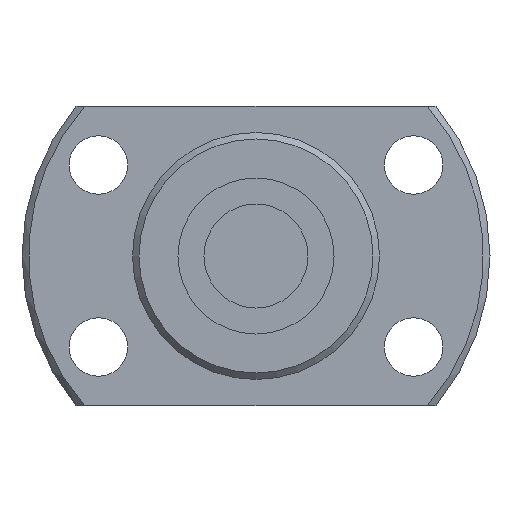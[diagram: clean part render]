
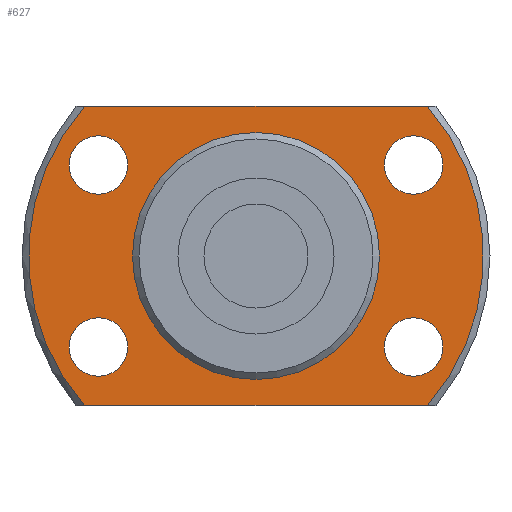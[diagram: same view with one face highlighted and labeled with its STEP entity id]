
A CAD part, left-side view. The second image highlights one B-rep face of the part: STEP entity #627.
In plain terms, the highlighted planar face has unit normal (-1, 0, 0) as drawn and (1, 0, 0) by its records, which use the part's own axes.
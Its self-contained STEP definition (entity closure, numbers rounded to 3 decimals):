
#77=LINE('',#1111,#95);
#78=LINE('',#1113,#96);
#95=VECTOR('',#920,1000.);
#96=VECTOR('',#921,1000.);
#196=ORIENTED_EDGE('',*,*,#298,.T.);
#197=ORIENTED_EDGE('',*,*,#276,.T.);
#198=ORIENTED_EDGE('',*,*,#299,.T.);
#199=ORIENTED_EDGE('',*,*,#300,.T.);
#200=ORIENTED_EDGE('',*,*,#301,.F.);
#201=ORIENTED_EDGE('',*,*,#302,.F.);
#202=ORIENTED_EDGE('',*,*,#303,.F.);
#203=ORIENTED_EDGE('',*,*,#304,.F.);
#204=ORIENTED_EDGE('',*,*,#297,.F.);
#276=EDGE_CURVE('',#339,#341,#392,.T.);
#297=EDGE_CURVE('',#360,#360,#407,.T.);
#298=EDGE_CURVE('',#361,#339,#77,.T.);
#299=EDGE_CURVE('',#341,#362,#78,.T.);
#300=EDGE_CURVE('',#362,#361,#408,.T.);
#301=EDGE_CURVE('',#363,#363,#409,.T.);
#302=EDGE_CURVE('',#364,#364,#410,.T.);
#303=EDGE_CURVE('',#365,#365,#411,.T.);
#304=EDGE_CURVE('',#366,#366,#412,.T.);
#339=VERTEX_POINT('',#1046);
#341=VERTEX_POINT('',#1053);
#360=VERTEX_POINT('',#1109);
#361=VERTEX_POINT('',#1112);
#362=VERTEX_POINT('',#1114);
#363=VERTEX_POINT('',#1117);
#364=VERTEX_POINT('',#1119);
#365=VERTEX_POINT('',#1121);
#366=VERTEX_POINT('',#1123);
#392=CIRCLE('',#712,17.5);
#407=CIRCLE('',#736,9.3);
#408=CIRCLE('',#738,17.5);
#409=CIRCLE('',#739,2.25);
#410=CIRCLE('',#740,2.25);
#411=CIRCLE('',#741,2.25);
#412=CIRCLE('',#742,2.25);
#475=EDGE_LOOP('',(#196,#197,#198,#199));
#476=EDGE_LOOP('',(#200));
#477=EDGE_LOOP('',(#201));
#478=EDGE_LOOP('',(#202));
#479=EDGE_LOOP('',(#203));
#480=EDGE_LOOP('',(#204));
#555=FACE_BOUND('',#475,.T.);
#556=FACE_BOUND('',#476,.T.);
#557=FACE_BOUND('',#477,.T.);
#558=FACE_BOUND('',#478,.T.);
#559=FACE_BOUND('',#479,.T.);
#560=FACE_BOUND('',#480,.T.);
#590=PLANE('',#737);
#627=ADVANCED_FACE('',(#555,#556,#557,#558,#559,#560),#590,.T.);
#712=AXIS2_PLACEMENT_3D('',#1054,#864,#865);
#736=AXIS2_PLACEMENT_3D('',#1108,#916,#917);
#737=AXIS2_PLACEMENT_3D('',#1110,#918,#919);
#738=AXIS2_PLACEMENT_3D('',#1115,#922,#923);
#739=AXIS2_PLACEMENT_3D('',#1116,#924,#925);
#740=AXIS2_PLACEMENT_3D('',#1118,#926,#927);
#741=AXIS2_PLACEMENT_3D('',#1120,#928,#929);
#742=AXIS2_PLACEMENT_3D('',#1122,#930,#931);
#864=DIRECTION('',(1.,0.,0.));
#865=DIRECTION('',(0.,0.,-1.));
#916=DIRECTION('',(1.,0.,0.));
#917=DIRECTION('',(0.,0.,-1.));
#918=DIRECTION('',(1.,0.,0.));
#919=DIRECTION('',(0.,0.,-1.));
#920=DIRECTION('',(0.,-1.,0.));
#921=DIRECTION('',(0.,1.,0.));
#922=DIRECTION('',(1.,0.,0.));
#923=DIRECTION('',(0.,0.,-1.));
#924=DIRECTION('',(1.,0.,0.));
#925=DIRECTION('',(0.,0.,-1.));
#926=DIRECTION('',(1.,0.,0.));
#927=DIRECTION('',(0.,0.,-1.));
#928=DIRECTION('',(1.,0.,0.));
#929=DIRECTION('',(0.,0.,-1.));
#930=DIRECTION('',(1.,0.,0.));
#931=DIRECTION('',(0.,0.,-1.));
#1046=CARTESIAN_POINT('',(5.,-13.191,11.5));
#1053=CARTESIAN_POINT('',(5.,-13.191,-11.5));
#1054=CARTESIAN_POINT('',(5.,0.,0.));
#1108=CARTESIAN_POINT('',(5.,0.,0.));
#1109=CARTESIAN_POINT('',(5.,0.,-9.3));
#1110=CARTESIAN_POINT('',(5.,9.3,0.));
#1111=CARTESIAN_POINT('',(5.,18.,11.5));
#1112=CARTESIAN_POINT('',(5.,13.191,11.5));
#1113=CARTESIAN_POINT('',(5.,-18.,-11.5));
#1114=CARTESIAN_POINT('',(5.,13.191,-11.5));
#1115=CARTESIAN_POINT('',(5.,0.,0.));
#1116=CARTESIAN_POINT('',(5.,12.124,7.));
#1117=CARTESIAN_POINT('',(5.,12.124,4.75));
#1118=CARTESIAN_POINT('',(5.,-12.124,7.));
#1119=CARTESIAN_POINT('',(5.,-12.124,4.75));
#1120=CARTESIAN_POINT('',(5.,-12.124,-7.));
#1121=CARTESIAN_POINT('',(5.,-12.124,-9.25));
#1122=CARTESIAN_POINT('',(5.,12.124,-7.));
#1123=CARTESIAN_POINT('',(5.,12.124,-9.25));
